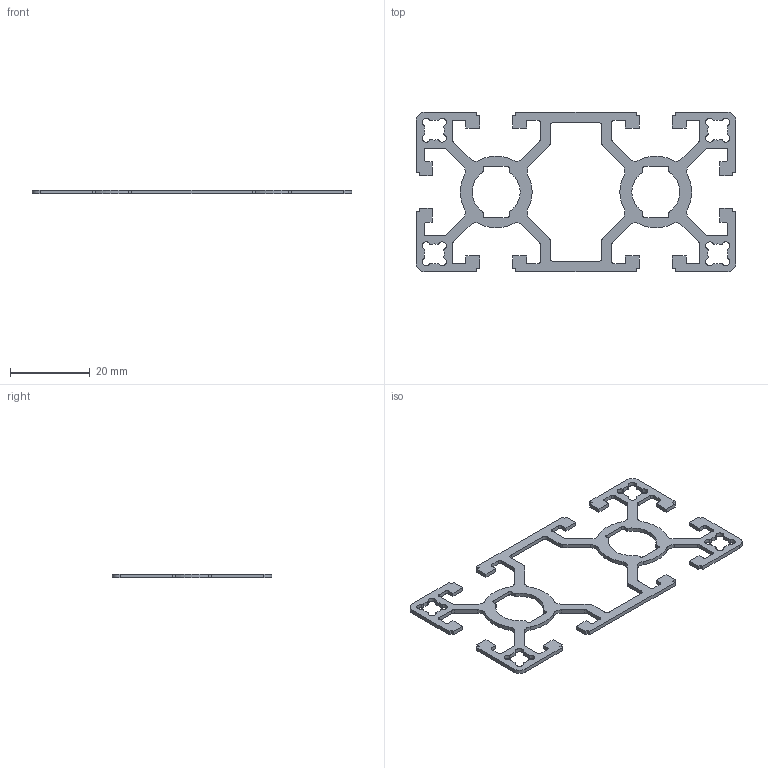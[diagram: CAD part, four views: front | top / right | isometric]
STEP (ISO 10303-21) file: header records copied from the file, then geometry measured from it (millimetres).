
FILE_DESCRIPTION(/* description */ ('Profilo PK4080 per matrice'),/* implementation_level */ '2;1');
FILE_NAME(/* name */ 'PK4080-02-02-1.stp',/* time_stamp */ '2025-05-14T12:03:51+02:00',/* author */ ('maritza.dallavecchia'),/* organization */ (''),/* preprocessor_version */ 'ST-DEVELOPER v20',/* originating_system */ 'Autodesk Inventor 2024',/* authorisation */ '');
FILE_SCHEMA (('AUTOMOTIVE_DESIGN { 1 0 10303 214 3 1 1 }'));
Length unit declared in the file: millimetre
Products named in the file (1): PK4080-02-02-1
Bounding box: 80 x 40 x 1 mm (x, y, z)
Volume: 1016.4 mm3; surface area: 2875.4 mm2
Topology: 1 solids, 1 shells, 286 faces, 852 edges, 568 vertices
Faces by surface type: cylinder 156, plane 130
Entity records: 9779 total; most frequent: DIRECTION 1738, CARTESIAN_POINT 1707, ORIENTED_EDGE 1704, EDGE_CURVE 852, AXIS2_PLACEMENT_3D 599, VERTEX_POINT 568, LINE 540, VECTOR 540
